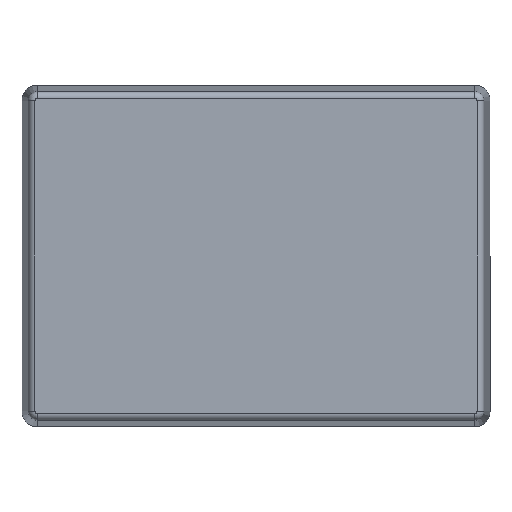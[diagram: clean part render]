
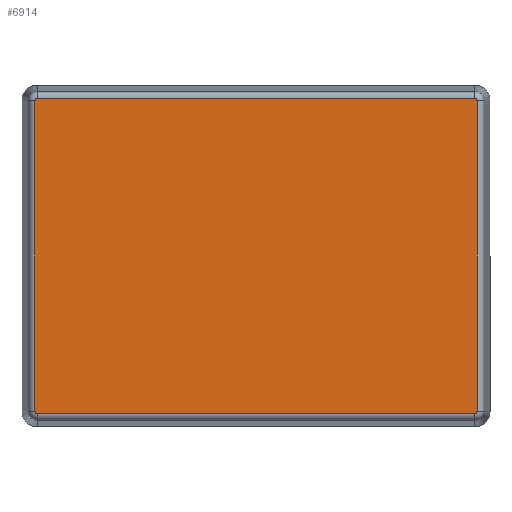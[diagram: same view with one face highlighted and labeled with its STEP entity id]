
A CAD part, front view. The second image highlights one B-rep face of the part: STEP entity #6914.
In plain terms, the highlighted planar face has unit normal (0, -1, 0).
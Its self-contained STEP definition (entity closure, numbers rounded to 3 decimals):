
#43 = DIRECTION ( 'NONE',  ( 0., -1., 0. ) ) ;
#69 = VERTEX_POINT ( 'NONE', #6785 ) ;
#164 = PLANE ( 'NONE',  #2637 ) ;
#198 = AXIS2_PLACEMENT_3D ( 'NONE', #5773, #7080, #4657 ) ;
#207 = VERTEX_POINT ( 'NONE', #5722 ) ;
#341 = VECTOR ( 'NONE', #1658, 1000. ) ;
#345 = CARTESIAN_POINT ( 'NONE',  ( 65.15, -71.9, 46.2 ) ) ;
#423 = VERTEX_POINT ( 'NONE', #5322 ) ;
#630 = DIRECTION ( 'NONE',  ( 0., -1., 0. ) ) ;
#644 = CIRCLE ( 'NONE', #7246, 0.669 ) ;
#714 = VECTOR ( 'NONE', #7652, 1000. ) ;
#929 = DIRECTION ( 'NONE',  ( 0., 0., 1. ) ) ;
#1201 = CARTESIAN_POINT ( 'NONE',  ( 65.15, -71.9, -46.2 ) ) ;
#1219 = CARTESIAN_POINT ( 'NONE',  ( -65.15, -71.9, -46.2 ) ) ;
#1278 = ORIENTED_EDGE ( 'NONE', *, *, #3749, .T. ) ;
#1292 = EDGE_CURVE ( 'NONE', #423, #7189, #2181, .T. ) ;
#1302 = CARTESIAN_POINT ( 'NONE',  ( -65.15, -71.9, 46.869 ) ) ;
#1449 = CARTESIAN_POINT ( 'NONE',  ( 65.15, -71.9, -46.869 ) ) ;
#1494 = CARTESIAN_POINT ( 'NONE',  ( -65.15, -71.9, -46.869 ) ) ;
#1557 = CARTESIAN_POINT ( 'NONE',  ( -65.819, -71.9, 46.2 ) ) ;
#1658 = DIRECTION ( 'NONE',  ( 0., 0., -1. ) ) ;
#1704 = ORIENTED_EDGE ( 'NONE', *, *, #2341, .T. ) ;
#1846 = ORIENTED_EDGE ( 'NONE', *, *, #1292, .T. ) ;
#1874 = ORIENTED_EDGE ( 'NONE', *, *, #6022, .T. ) ;
#1997 = DIRECTION ( 'NONE',  ( 0., -1., 0. ) ) ;
#2181 = CIRCLE ( 'NONE', #5915, 0.669 ) ;
#2341 = EDGE_CURVE ( 'NONE', #4867, #423, #6432, .T. ) ;
#2432 = DIRECTION ( 'NONE',  ( 0., 0., -1. ) ) ;
#2572 = DIRECTION ( 'NONE',  ( 1., 0., 0. ) ) ;
#2608 = VERTEX_POINT ( 'NONE', #1449 ) ;
#2637 = AXIS2_PLACEMENT_3D ( 'NONE', #6254, #1997, #5706 ) ;
#2639 = ORIENTED_EDGE ( 'NONE', *, *, #6644, .T. ) ;
#2677 = EDGE_CURVE ( 'NONE', #7189, #2608, #6937, .T. ) ;
#2693 = CARTESIAN_POINT ( 'NONE',  ( -65.15, -71.9, -46.869 ) ) ;
#2698 = DIRECTION ( 'NONE',  ( 0., -1., 0. ) ) ;
#2755 = EDGE_CURVE ( 'NONE', #3441, #4778, #7615, .T. ) ;
#2834 = LINE ( 'NONE', #6494, #3016 ) ;
#2888 = ORIENTED_EDGE ( 'NONE', *, *, #2677, .T. ) ;
#3016 = VECTOR ( 'NONE', #929, 1000. ) ;
#3053 = DIRECTION ( 'NONE',  ( 0., 0., -1. ) ) ;
#3441 = VERTEX_POINT ( 'NONE', #5594 ) ;
#3449 = CIRCLE ( 'NONE', #4719, 0.669 ) ;
#3749 = EDGE_CURVE ( 'NONE', #2608, #207, #644, .T. ) ;
#3970 = CARTESIAN_POINT ( 'NONE',  ( -65.819, -71.9, 46.2 ) ) ;
#4018 = EDGE_CURVE ( 'NONE', #4778, #4867, #7054, .T. ) ;
#4033 = CARTESIAN_POINT ( 'NONE',  ( -65.15, -71.9, 46.869 ) ) ;
#4657 = DIRECTION ( 'NONE',  ( 0., 0., -1. ) ) ;
#4719 = AXIS2_PLACEMENT_3D ( 'NONE', #345, #2698, #5723 ) ;
#4778 = VERTEX_POINT ( 'NONE', #1302 ) ;
#4847 = ORIENTED_EDGE ( 'NONE', *, *, #2755, .T. ) ;
#4867 = VERTEX_POINT ( 'NONE', #1557 ) ;
#5322 = CARTESIAN_POINT ( 'NONE',  ( -65.819, -71.9, -46.2 ) ) ;
#5337 = ORIENTED_EDGE ( 'NONE', *, *, #4018, .T. ) ;
#5594 = CARTESIAN_POINT ( 'NONE',  ( 65.15, -71.9, 46.869 ) ) ;
#5631 = FACE_OUTER_BOUND ( 'NONE', #6059, .T. ) ;
#5706 = DIRECTION ( 'NONE',  ( 0., 0., -1. ) ) ;
#5722 = CARTESIAN_POINT ( 'NONE',  ( 65.819, -71.9, -46.2 ) ) ;
#5723 = DIRECTION ( 'NONE',  ( 0., 0., -1. ) ) ;
#5773 = CARTESIAN_POINT ( 'NONE',  ( -65.15, -71.9, 46.2 ) ) ;
#5915 = AXIS2_PLACEMENT_3D ( 'NONE', #1219, #630, #3053 ) ;
#6022 = EDGE_CURVE ( 'NONE', #69, #3441, #3449, .T. ) ;
#6049 = VECTOR ( 'NONE', #2572, 1000. ) ;
#6059 = EDGE_LOOP ( 'NONE', ( #4847, #5337, #1704, #1846, #2888, #1278, #2639, #1874 ) ) ;
#6254 = CARTESIAN_POINT ( 'NONE',  ( -65.15, -71.9, 46.2 ) ) ;
#6432 = LINE ( 'NONE', #3970, #341 ) ;
#6494 = CARTESIAN_POINT ( 'NONE',  ( 65.819, -71.9, 46.2 ) ) ;
#6644 = EDGE_CURVE ( 'NONE', #207, #69, #2834, .T. ) ;
#6785 = CARTESIAN_POINT ( 'NONE',  ( 65.819, -71.9, 46.2 ) ) ;
#6914 = ADVANCED_FACE ( 'NONE', ( #5631 ), #164, .T. ) ;
#6937 = LINE ( 'NONE', #1494, #6049 ) ;
#7054 = CIRCLE ( 'NONE', #198, 0.669 ) ;
#7080 = DIRECTION ( 'NONE',  ( 0., -1., 0. ) ) ;
#7189 = VERTEX_POINT ( 'NONE', #2693 ) ;
#7246 = AXIS2_PLACEMENT_3D ( 'NONE', #1201, #43, #2432 ) ;
#7615 = LINE ( 'NONE', #4033, #714 ) ;
#7652 = DIRECTION ( 'NONE',  ( -1., 0., 0. ) ) ;
